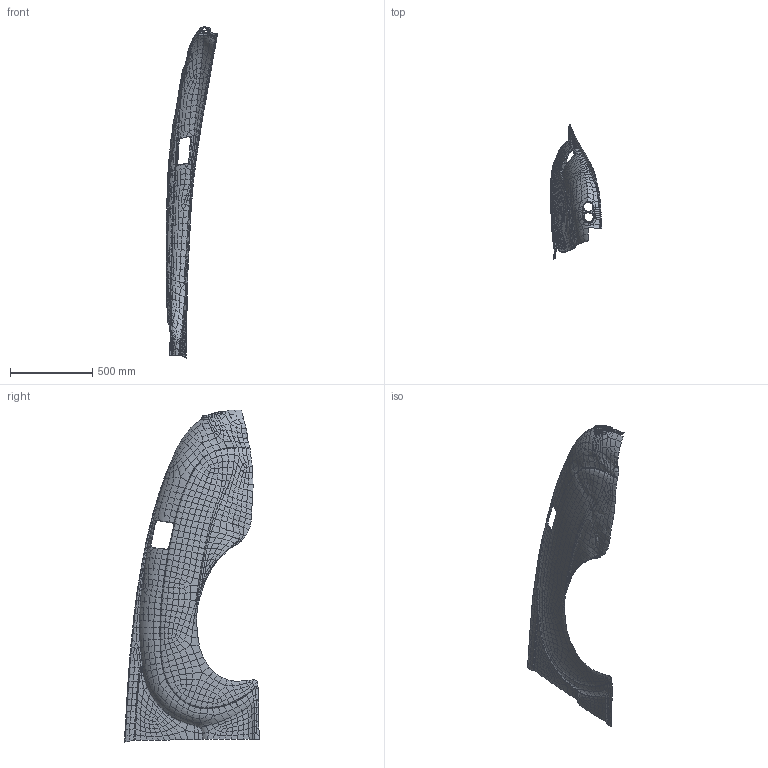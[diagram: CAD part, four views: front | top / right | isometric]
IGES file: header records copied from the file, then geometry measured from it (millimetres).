
Start section: Geomagic Studio
Global section: file name: C:\Users\Ronnie_H\Desktop\12A597 Bentley\Geo\Left Fender Exact.igs; native system: Geomagic -- Studio 2012; preprocessor: 2012; author: <unspecified>; organization: <unspecified>; date: 20121212.160522; units: inch
Bounding box: 314.89 x 822.95 x 2021.67 mm (x, y, z)
Surface area: 1212983.2 mm2 (no closed solid volume)
Topology: 0 solids, 0 shells, 1592 faces, 6368 edges, 6368 vertices
Faces by surface type: bspline 1592
